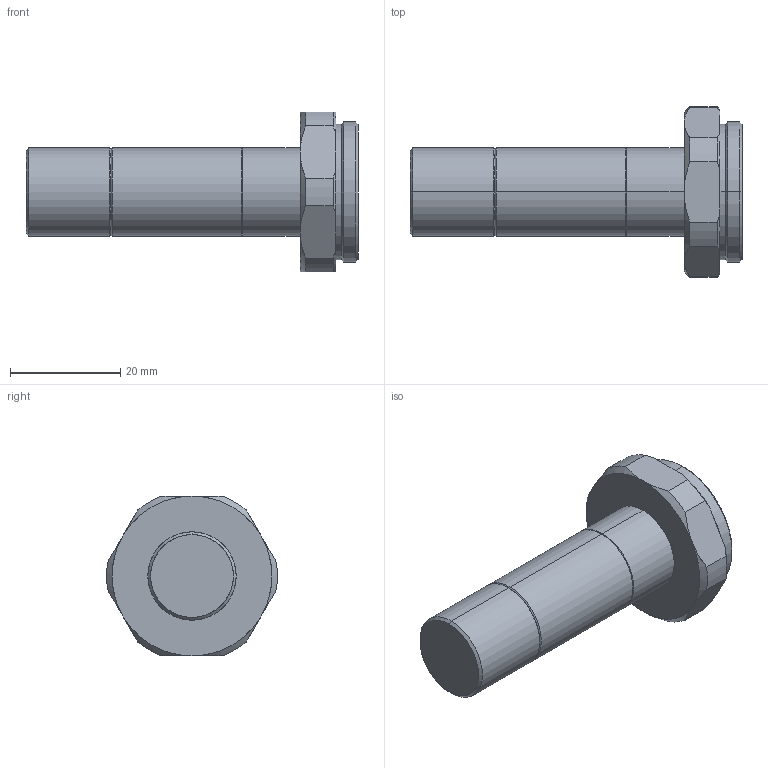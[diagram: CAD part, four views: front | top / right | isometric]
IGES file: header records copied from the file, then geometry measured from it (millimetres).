
Start section: SolidWorks IGES file using analytic representation for surfaces
Global section: file name: C:\IGES\TS-APT1.5X65_Drawing_M0252E-A00100.IGS; native system: SolidWorks 2021; preprocessor: SolidWorks 2021; author: Chishima_vst; date: 230419.114612; units: millimetre
Bounding box: 60.2 x 30.95 x 29 mm (x, y, z)
Surface area: 4838.6 mm2 (no closed solid volume)
Topology: 0 solids, 0 shells, 53 faces, 502 edges, 502 vertices
Faces by surface type: revolution 42, bspline 11
